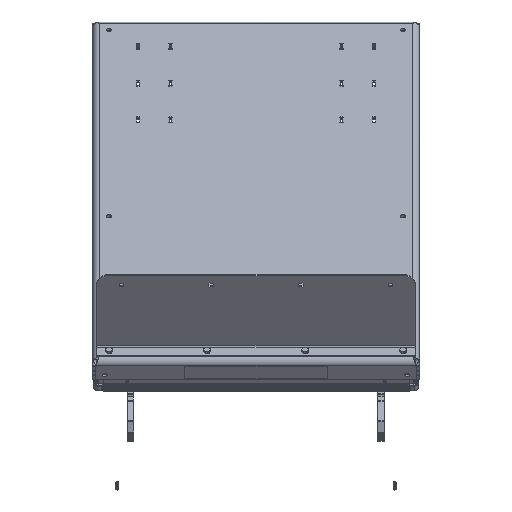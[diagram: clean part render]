
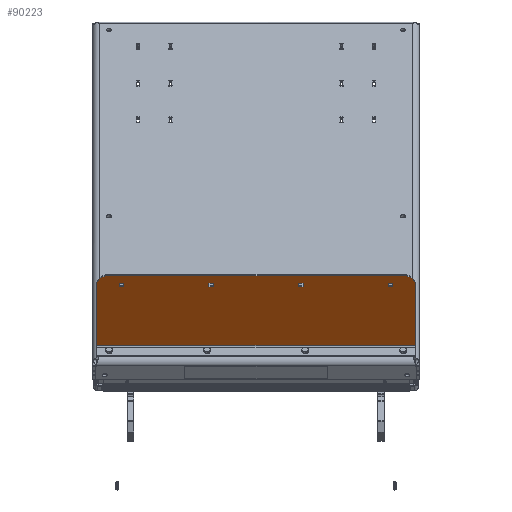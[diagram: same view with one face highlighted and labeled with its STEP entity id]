
A CAD part, left-side view. The second image highlights one B-rep face of the part: STEP entity #90223.
In plain terms, the highlighted planar face has unit normal (-0.766, 0, -0.643).
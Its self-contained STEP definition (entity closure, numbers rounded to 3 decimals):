
#8118=LINE('',#160913,#15842);
#8140=LINE('',#160961,#15864);
#8141=LINE('',#160965,#15865);
#8144=LINE('',#160970,#15868);
#8146=LINE('',#160974,#15870);
#8148=LINE('',#160977,#15872);
#8149=LINE('',#160981,#15873);
#8152=LINE('',#160986,#15876);
#8154=LINE('',#160990,#15878);
#8156=LINE('',#160993,#15880);
#8157=LINE('',#160997,#15881);
#8160=LINE('',#161002,#15884);
#8162=LINE('',#161006,#15886);
#8164=LINE('',#161009,#15888);
#8165=LINE('',#161013,#15889);
#8168=LINE('',#161018,#15892);
#8170=LINE('',#161022,#15894);
#8172=LINE('',#161025,#15896);
#8176=LINE('',#161039,#15900);
#8177=LINE('',#161041,#15901);
#15842=VECTOR('',#114976,72.);
#15864=VECTOR('',#115008,19.2);
#15865=VECTOR('',#115011,1.02);
#15868=VECTOR('',#115016,1.02);
#15870=VECTOR('',#115020,1.02);
#15872=VECTOR('',#115024,1.02);
#15873=VECTOR('',#115027,1.02);
#15876=VECTOR('',#115032,1.02);
#15878=VECTOR('',#115036,1.02);
#15880=VECTOR('',#115040,1.02);
#15881=VECTOR('',#115043,1.02);
#15884=VECTOR('',#115048,1.02);
#15886=VECTOR('',#115052,1.02);
#15888=VECTOR('',#115056,1.02);
#15889=VECTOR('',#115059,1.02);
#15892=VECTOR('',#115064,1.02);
#15894=VECTOR('',#115068,1.02);
#15896=VECTOR('',#115072,1.02);
#15900=VECTOR('',#115094,78.);
#15901=VECTOR('',#115097,19.2);
#19708=PLANE('',#96623);
#20682=FACE_BOUND('',#29598,.T.);
#20683=FACE_BOUND('',#29599,.T.);
#20684=FACE_BOUND('',#29600,.T.);
#20685=FACE_BOUND('',#29601,.T.);
#24496=FACE_OUTER_BOUND('',#29597,.T.);
#29597=EDGE_LOOP('',(#74232,#74233,#74234,#74235,#74236,#74237));
#29598=EDGE_LOOP('',(#74238,#74239,#74240,#74241));
#29599=EDGE_LOOP('',(#74242,#74243,#74244,#74245));
#29600=EDGE_LOOP('',(#74246,#74247,#74248,#74249));
#29601=EDGE_LOOP('',(#74250,#74251,#74252,#74253));
#33316=CIRCLE('',#96589,3.);
#33319=CIRCLE('',#96595,3.);
#40683=VERTEX_POINT('',#160900);
#40684=VERTEX_POINT('',#160901);
#40688=VERTEX_POINT('',#160911);
#40708=VERTEX_POINT('',#160955);
#40709=VERTEX_POINT('',#160959);
#40710=VERTEX_POINT('',#160963);
#40711=VERTEX_POINT('',#160964);
#40712=VERTEX_POINT('',#160969);
#40713=VERTEX_POINT('',#160973);
#40714=VERTEX_POINT('',#160979);
#40715=VERTEX_POINT('',#160980);
#40716=VERTEX_POINT('',#160985);
#40717=VERTEX_POINT('',#160989);
#40718=VERTEX_POINT('',#160995);
#40719=VERTEX_POINT('',#160996);
#40720=VERTEX_POINT('',#161001);
#40721=VERTEX_POINT('',#161005);
#40722=VERTEX_POINT('',#161011);
#40723=VERTEX_POINT('',#161012);
#40724=VERTEX_POINT('',#161017);
#40725=VERTEX_POINT('',#161021);
#40726=VERTEX_POINT('',#161035);
#52215=EDGE_CURVE('',#40683,#40684,#33316,.T.);
#52221=EDGE_CURVE('',#40688,#40683,#8118,.T.);
#52242=EDGE_CURVE('',#40708,#40688,#33319,.T.);
#52245=EDGE_CURVE('',#40709,#40708,#8140,.T.);
#52246=EDGE_CURVE('',#40710,#40711,#8141,.T.);
#52249=EDGE_CURVE('',#40711,#40712,#8144,.T.);
#52251=EDGE_CURVE('',#40712,#40713,#8146,.T.);
#52253=EDGE_CURVE('',#40713,#40710,#8148,.T.);
#52254=EDGE_CURVE('',#40714,#40715,#8149,.T.);
#52257=EDGE_CURVE('',#40715,#40716,#8152,.T.);
#52259=EDGE_CURVE('',#40716,#40717,#8154,.T.);
#52261=EDGE_CURVE('',#40717,#40714,#8156,.T.);
#52262=EDGE_CURVE('',#40718,#40719,#8157,.T.);
#52265=EDGE_CURVE('',#40719,#40720,#8160,.T.);
#52267=EDGE_CURVE('',#40720,#40721,#8162,.T.);
#52269=EDGE_CURVE('',#40721,#40718,#8164,.T.);
#52270=EDGE_CURVE('',#40722,#40723,#8165,.T.);
#52273=EDGE_CURVE('',#40723,#40724,#8168,.T.);
#52275=EDGE_CURVE('',#40724,#40725,#8170,.T.);
#52277=EDGE_CURVE('',#40725,#40722,#8172,.T.);
#52285=EDGE_CURVE('',#40709,#40726,#8176,.T.);
#52286=EDGE_CURVE('',#40684,#40726,#8177,.T.);
#74232=ORIENTED_EDGE('',*,*,#52215,.F.);
#74233=ORIENTED_EDGE('',*,*,#52221,.F.);
#74234=ORIENTED_EDGE('',*,*,#52242,.F.);
#74235=ORIENTED_EDGE('',*,*,#52245,.F.);
#74236=ORIENTED_EDGE('',*,*,#52285,.T.);
#74237=ORIENTED_EDGE('',*,*,#52286,.F.);
#74238=ORIENTED_EDGE('',*,*,#52246,.T.);
#74239=ORIENTED_EDGE('',*,*,#52249,.T.);
#74240=ORIENTED_EDGE('',*,*,#52251,.T.);
#74241=ORIENTED_EDGE('',*,*,#52253,.T.);
#74242=ORIENTED_EDGE('',*,*,#52254,.T.);
#74243=ORIENTED_EDGE('',*,*,#52257,.T.);
#74244=ORIENTED_EDGE('',*,*,#52259,.T.);
#74245=ORIENTED_EDGE('',*,*,#52261,.T.);
#74246=ORIENTED_EDGE('',*,*,#52262,.T.);
#74247=ORIENTED_EDGE('',*,*,#52265,.T.);
#74248=ORIENTED_EDGE('',*,*,#52267,.T.);
#74249=ORIENTED_EDGE('',*,*,#52269,.T.);
#74250=ORIENTED_EDGE('',*,*,#52270,.T.);
#74251=ORIENTED_EDGE('',*,*,#52273,.T.);
#74252=ORIENTED_EDGE('',*,*,#52275,.T.);
#74253=ORIENTED_EDGE('',*,*,#52277,.T.);
#90223=ADVANCED_FACE('',(#24496,#20682,#20683,#20684,#20685),#19708,.T.);
#96589=AXIS2_PLACEMENT_3D('',#160902,#114966,#114967);
#96595=AXIS2_PLACEMENT_3D('',#160956,#115002,#115003);
#96623=AXIS2_PLACEMENT_3D('',#161042,#115098,#115099);
#114966=DIRECTION('center_axis',(0.766,0.,
0.643));
#114967=DIRECTION('ref_axis',(-0.455,-0.707,0.542));
#114976=DIRECTION('',(0.,-1.,0.));
#115002=DIRECTION('center_axis',(0.766,0.,
0.643));
#115003=DIRECTION('ref_axis',(-0.455,0.707,0.542));
#115008=DIRECTION('',(-0.643,0.,0.766));
#115011=DIRECTION('',(0.643,0.,-0.766));
#115016=DIRECTION('',(0.,1.,0.));
#115020=DIRECTION('',(-0.643,0.,0.766));
#115024=DIRECTION('',(0.,-1.,0.));
#115027=DIRECTION('',(0.643,0.,-0.766));
#115032=DIRECTION('',(0.,1.,0.));
#115036=DIRECTION('',(-0.643,0.,0.766));
#115040=DIRECTION('',(0.,-1.,0.));
#115043=DIRECTION('',(0.643,0.,-0.766));
#115048=DIRECTION('',(0.,1.,0.));
#115052=DIRECTION('',(-0.643,0.,0.766));
#115056=DIRECTION('',(0.,-1.,0.));
#115059=DIRECTION('',(0.643,0.,-0.766));
#115064=DIRECTION('',(0.,1.,0.));
#115068=DIRECTION('',(-0.643,0.,0.766));
#115072=DIRECTION('',(0.,-1.,0.));
#115094=DIRECTION('',(0.,-1.,0.));
#115097=DIRECTION('',(0.643,0.,-0.766));
#115098=DIRECTION('center_axis',(-0.766,0.,
-0.643));
#115099=DIRECTION('ref_axis',(0.,-1.,0.));
#160900=CARTESIAN_POINT('',(-70.601,-36.,55.096));
#160901=CARTESIAN_POINT('',(-68.672,-39.,52.798));
#160902=CARTESIAN_POINT('Origin',(-68.672,-36.,52.798));
#160911=CARTESIAN_POINT('',(-70.601,36.,55.096));
#160913=CARTESIAN_POINT('',(-70.601,-39.,55.096));
#160955=CARTESIAN_POINT('',(-68.672,39.,52.798));
#160956=CARTESIAN_POINT('Origin',(-68.672,36.,52.798));
#160959=CARTESIAN_POINT('',(-56.331,39.,38.09));
#160961=CARTESIAN_POINT('',(-70.601,39.,55.096));
#160963=CARTESIAN_POINT('',(-68.994,32.49,53.181));
#160964=CARTESIAN_POINT('',(-68.338,32.49,52.4));
#160965=CARTESIAN_POINT('',(-66.101,32.49,49.734));
#160969=CARTESIAN_POINT('',(-68.338,33.51,52.4));
#160970=CARTESIAN_POINT('',(-68.338,16.245,52.4));
#160973=CARTESIAN_POINT('',(-68.994,33.51,53.181));
#160974=CARTESIAN_POINT('',(-65.773,33.51,49.343));
#160977=CARTESIAN_POINT('',(-68.994,16.755,53.181));
#160979=CARTESIAN_POINT('',(-68.994,10.49,53.181));
#160980=CARTESIAN_POINT('',(-68.338,10.49,52.4));
#160981=CARTESIAN_POINT('',(-66.101,10.49,49.734));
#160985=CARTESIAN_POINT('',(-68.338,11.51,52.4));
#160986=CARTESIAN_POINT('',(-68.338,5.245,52.4));
#160989=CARTESIAN_POINT('',(-68.994,11.51,53.181));
#160990=CARTESIAN_POINT('',(-65.773,11.51,49.343));
#160993=CARTESIAN_POINT('',(-68.994,5.755,53.181));
#160995=CARTESIAN_POINT('',(-68.994,-11.51,53.181));
#160996=CARTESIAN_POINT('',(-68.338,-11.51,52.4));
#160997=CARTESIAN_POINT('',(-66.101,-11.51,49.734));
#161001=CARTESIAN_POINT('',(-68.338,-10.49,52.4));
#161002=CARTESIAN_POINT('',(-68.338,-5.755,52.4));
#161005=CARTESIAN_POINT('',(-68.994,-10.49,53.181));
#161006=CARTESIAN_POINT('',(-65.773,-10.49,49.343));
#161009=CARTESIAN_POINT('',(-68.994,-5.245,53.181));
#161011=CARTESIAN_POINT('',(-68.994,-33.51,53.181));
#161012=CARTESIAN_POINT('',(-68.338,-33.51,52.4));
#161013=CARTESIAN_POINT('',(-66.101,-33.51,49.734));
#161017=CARTESIAN_POINT('',(-68.338,-32.49,52.4));
#161018=CARTESIAN_POINT('',(-68.338,-16.755,52.4));
#161021=CARTESIAN_POINT('',(-68.994,-32.49,53.181));
#161022=CARTESIAN_POINT('',(-65.773,-32.49,49.343));
#161025=CARTESIAN_POINT('',(-68.994,-16.245,53.181));
#161035=CARTESIAN_POINT('',(-56.331,-39.,38.09));
#161039=CARTESIAN_POINT('',(-56.331,-19.5,38.09));
#161041=CARTESIAN_POINT('',(-55.817,-39.,37.477));
#161042=CARTESIAN_POINT('Origin',(-63.209,0.,
46.287));
